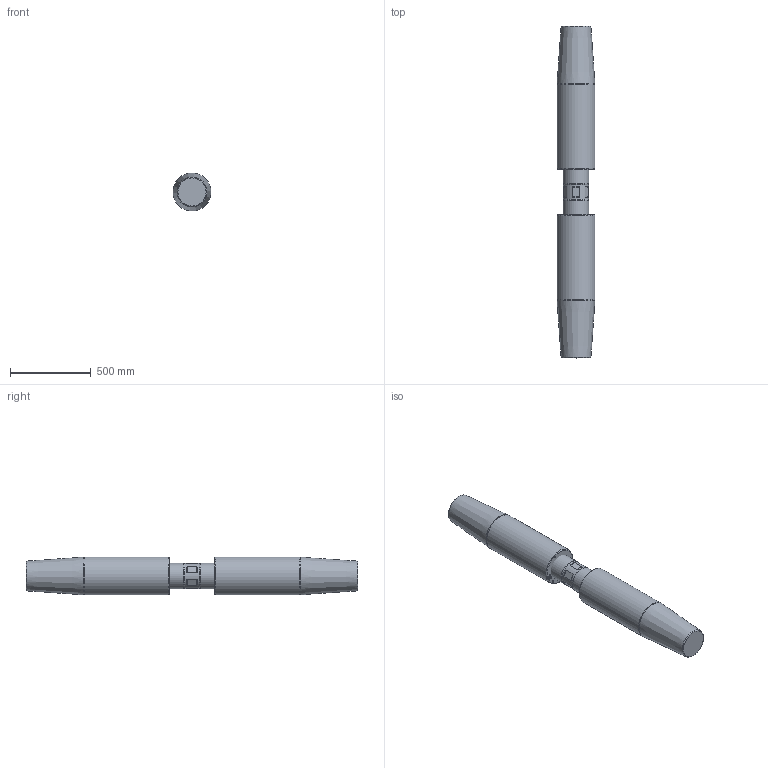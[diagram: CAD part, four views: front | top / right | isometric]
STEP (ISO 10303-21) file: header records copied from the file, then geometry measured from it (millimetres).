
FILE_DESCRIPTION(/* description */ (''),/* implementation_level */ '2;1');
FILE_NAME(/* name */ 'D:\Clienti\Redaelli (inventor)\CYA\STEP\Arrangement\CYA080 52 061 2.stp',/* time_stamp */ '2021-05-09T10:26:04+02:00',/* author */ ('fabri'),/* organization */ (''),/* preprocessor_version */ 'ST-DEVELOPER v16.13',/* originating_system */ 'Autodesk Inventor 2018',/* authorisation */ '');
FILE_SCHEMA (('AUTOMOTIVE_DESIGN { 1 0 10303 214 3 1 1 }'));
Length unit declared in the file: millimetre
Products named in the file (4): CYA012-54-062-0; TBF012-12-012-1; TBF012-13-012-0; TBF012-13-012-0_1
Assembly tree (3 placements, depth 2):
  CYA012-54-062-0
    TBF012-12-012-1
    TBF012-13-012-0
    TBF012-13-012-0_1
Bounding box: 234.84 x 2052 x 234.84 mm (x, y, z)
Volume: 88848071.4 mm3; surface area: 1892793.6 mm2
Topology: 3 solids, 3 shells, 505 faces, 1335 edges, 888 vertices
Faces by surface type: bspline 285, plane 177, cylinder 25, cone 14, torus 4
Full cylindrical faces by diameter (mm): 10.106 x8, 156 x1, 160 x2, 235 x2
Entity records: 17383 total; most frequent: CARTESIAN_POINT 6879, ORIENTED_EDGE 2592, EDGE_CURVE 1296, DIRECTION 1198, VERTEX_POINT 880, LINE 664, VECTOR 664, B_SPLINE_CURVE_WITH_KNOTS 590
